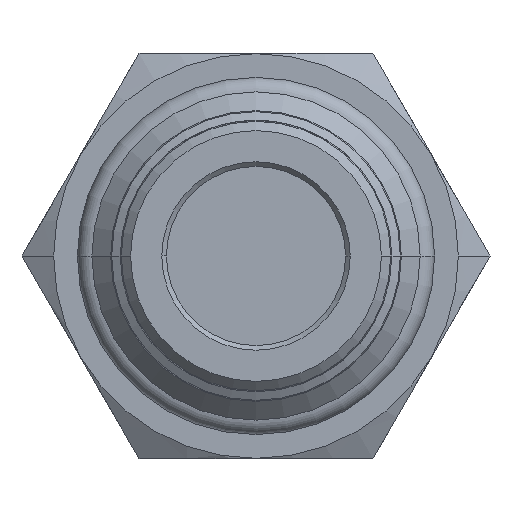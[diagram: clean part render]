
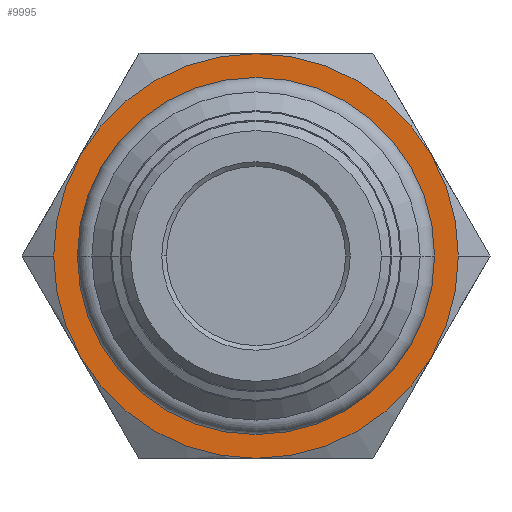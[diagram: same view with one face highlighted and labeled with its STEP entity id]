
A CAD part, front view. The second image highlights one B-rep face of the part: STEP entity #9995.
In plain terms, the highlighted planar face has unit normal (0, -1, 0).
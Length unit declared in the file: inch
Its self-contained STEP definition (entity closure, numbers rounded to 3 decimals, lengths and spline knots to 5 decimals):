
#951=CARTESIAN_POINT('',(0.,0.,0.));
#952=DIRECTION('',(0.,1.,0.));
#953=DIRECTION('',(1.,0.,0.));
#954=AXIS2_PLACEMENT_3D('',#951,#952,#953);
#959=CARTESIAN_POINT('',(0.,0.,0.));
#960=DIRECTION('',(0.,-1.,0.));
#961=DIRECTION('',(1.,0.,0.));
#962=AXIS2_PLACEMENT_3D('',#959,#960,#961);
#967=CARTESIAN_POINT('',(0.,0.,0.));
#968=DIRECTION('',(0.,-1.,0.));
#969=DIRECTION('',(1.,0.,0.));
#970=AXIS2_PLACEMENT_3D('',#967,#968,#969);
#975=CARTESIAN_POINT('',(0.,0.,0.));
#976=DIRECTION('',(0.,-1.,0.));
#977=DIRECTION('',(-1.,0.,0.));
#978=AXIS2_PLACEMENT_3D('',#975,#976,#977);
#9348=CARTESIAN_POINT('',(0.655,0.,0.));
#9350=VERTEX_POINT('',#9348);
#9364=CARTESIAN_POINT('',(-0.655,0.,0.));
#9366=VERTEX_POINT('',#9364);
#9623=CARTESIAN_POINT('',(0.53261,0.,0.));
#9624=CARTESIAN_POINT('',(-0.53261,0.,0.));
#9625=VERTEX_POINT('',#9623);
#9626=VERTEX_POINT('',#9624);
#9980=CARTESIAN_POINT('',(0.,0.,0.));
#9981=DIRECTION('',(0.,1.,0.));
#9982=DIRECTION('',(1.,0.,0.));
#9983=AXIS2_PLACEMENT_3D('',#9980,#9981,#9982);
#9984=PLANE('',#9983);
#9985=ORIENTED_EDGE('',*,*,#9975,.T.);
#9986=ORIENTED_EDGE('',*,*,#9959,.F.);
#9987=EDGE_LOOP('',(#9985,#9986));
#9988=FACE_OUTER_BOUND('',#9987,.F.);
#9990=ORIENTED_EDGE('',*,*,#9989,.T.);
#9992=ORIENTED_EDGE('',*,*,#9991,.T.);
#9993=EDGE_LOOP('',(#9990,#9992));
#9994=FACE_BOUND('',#9993,.F.);
#955=CIRCLE('',#954,0.655);
#963=CIRCLE('',#962,0.655);
#971=CIRCLE('',#970,0.53261);
#979=CIRCLE('',#978,0.53261);
#9959=EDGE_CURVE('',#9350,#9366,#963,.T.);
#9975=EDGE_CURVE('',#9350,#9366,#955,.T.);
#9989=EDGE_CURVE('',#9625,#9626,#971,.T.);
#9991=EDGE_CURVE('',#9626,#9625,#979,.T.);
#9995=ADVANCED_FACE('',(#9988,#9994),#9984,.F.);
